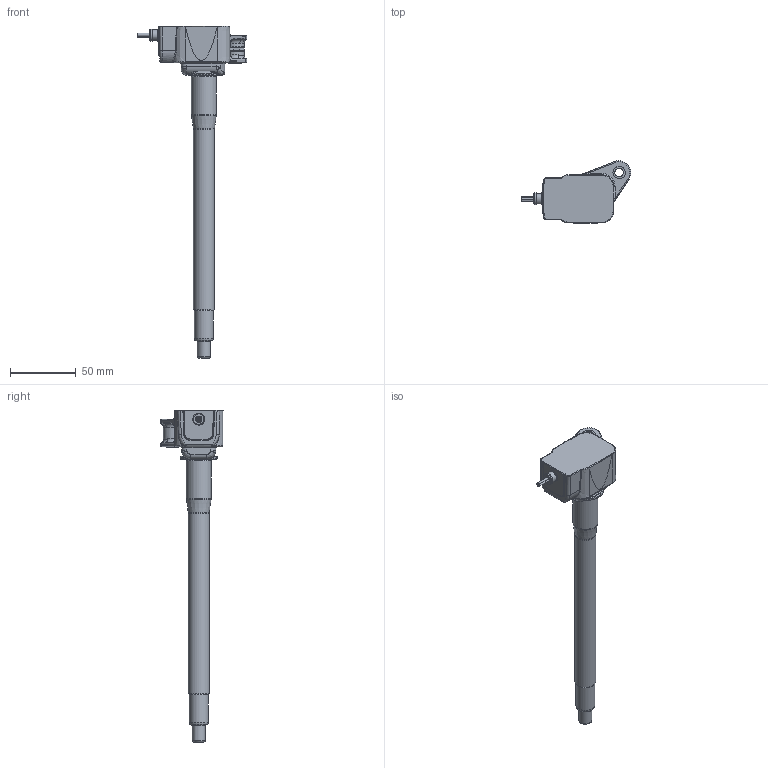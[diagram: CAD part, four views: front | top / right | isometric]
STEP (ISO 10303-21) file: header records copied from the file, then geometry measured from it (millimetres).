
FILE_DESCRIPTION(/* description */ (''),/* implementation_level */ '2;1');
FILE_NAME(/* name */ 'F02UA01368-01_MOD_01.stp',/* time_stamp */ '2026-10-19T13:21:09+02:00',/* author */ (''),/* organization */ (''),/* preprocessor_version */ 'ST-DEVELOPER v20.1',/* originating_system */ 'SIEMENS PLM Software NX2606.4002',/* authorisation */ '');
FILE_SCHEMA (('AUTOMOTIVE_DESIGN { 1 0 10303 214 3 1 1 1 }'));
Bounding box: 83.82 x 47.71 x 253.3 mm (x, y, z)
Volume: 107466.7 mm3; surface area: 23008.4 mm2
Topology: 5 solids, 5 shells, 323 faces, 746 edges, 416 vertices
Faces by surface type: bspline 98, cylinder 95, plane 61, torus 45, cone 12, extrusion 9, sphere 3
Full cylindrical faces by diameter (mm): 1.3 x3, 1.5 x1, 3.8 x1, 6 x2, 6.5 x1, 8 x1, 9 x2, 10 x1, 12.344 x1, 14.4 x1, 16 x1, 19 x1
Entity records: 15950 total; most frequent: CRTPNT 7433, ORNEDG 1342, DRCTN 1205, EDGCRV 671, A2PL3D 504, VRTPNT 405, EDGLP 372, ADVFC 323
